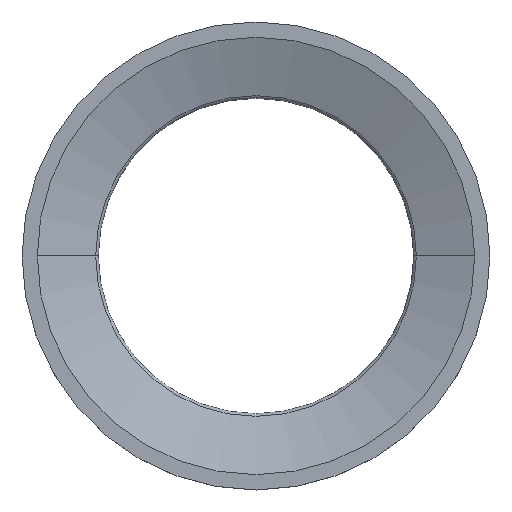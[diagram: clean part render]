
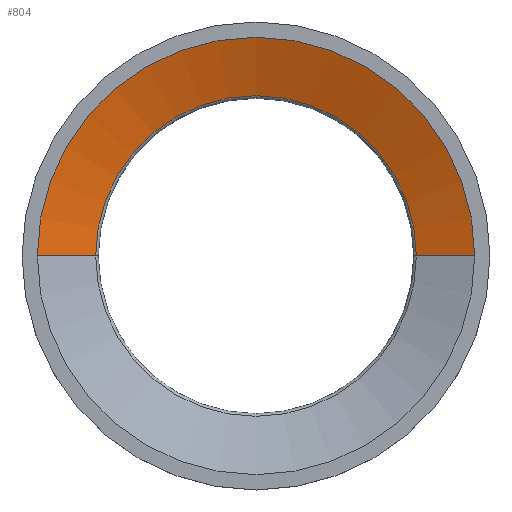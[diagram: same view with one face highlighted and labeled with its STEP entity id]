
A CAD part, top view. The second image highlights one B-rep face of the part: STEP entity #804.
In plain terms, the highlighted conical face has half-angle 70 degrees and reference radius 93.158 mm.
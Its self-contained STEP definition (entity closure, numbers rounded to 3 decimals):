
#112=DIRECTION('',(-0.94,0.,-0.342));
#113=VECTOR('',#112,30.525);
#114=CARTESIAN_POINT('',(107.5,0.,25.));
#115=LINE('',#114,#113);
#116=CARTESIAN_POINT('',(0.,0.,
14.56));
#117=DIRECTION('',(0.,0.,1.));
#118=DIRECTION('',(1.,0.,0.));
#119=AXIS2_PLACEMENT_3D('',#116,#117,#118);
#121=DIRECTION('',(0.94,0.,-0.342));
#122=VECTOR('',#121,30.525);
#123=CARTESIAN_POINT('',(-107.5,0.,
25.));
#124=LINE('',#123,#122);
#140=CARTESIAN_POINT('',(0.,0.,
25.));
#141=DIRECTION('',(0.,0.,-1.));
#142=DIRECTION('',(-1.,0.,0.));
#143=AXIS2_PLACEMENT_3D('',#140,#141,#142);
#519=CARTESIAN_POINT('',(107.5,0.,
25.));
#520=CARTESIAN_POINT('',(-107.5,0.,25.));
#521=VERTEX_POINT('',#519);
#522=VERTEX_POINT('',#520);
#527=CARTESIAN_POINT('',(-78.816,0.,
14.56));
#528=CARTESIAN_POINT('',(78.816,0.,14.56));
#529=VERTEX_POINT('',#527);
#530=VERTEX_POINT('',#528);
#792=CARTESIAN_POINT('',(0.,0.,
19.78));
#793=DIRECTION('',(0.,0.,1.));
#794=DIRECTION('',(0.,-1.,0.));
#795=AXIS2_PLACEMENT_3D('',#792,#793,#794);
#796=CONICAL_SURFACE('',#795,93.158,70.);
#797=ORIENTED_EDGE('',*,*,#757,.T.);
#798=ORIENTED_EDGE('',*,*,#787,.F.);
#800=ORIENTED_EDGE('',*,*,#799,.T.);
#801=ORIENTED_EDGE('',*,*,#783,.T.);
#802=EDGE_LOOP('',(#797,#798,#800,#801));
#803=FACE_OUTER_BOUND('',#802,.F.);
#120=CIRCLE('',#119,78.816);
#144=CIRCLE('',#143,107.5);
#757=EDGE_CURVE('',#530,#529,#120,.T.);
#783=EDGE_CURVE('',#521,#530,#115,.T.);
#787=EDGE_CURVE('',#522,#529,#124,.T.);
#799=EDGE_CURVE('',#522,#521,#144,.T.);
#804=ADVANCED_FACE('',(#803),#796,.F.);
